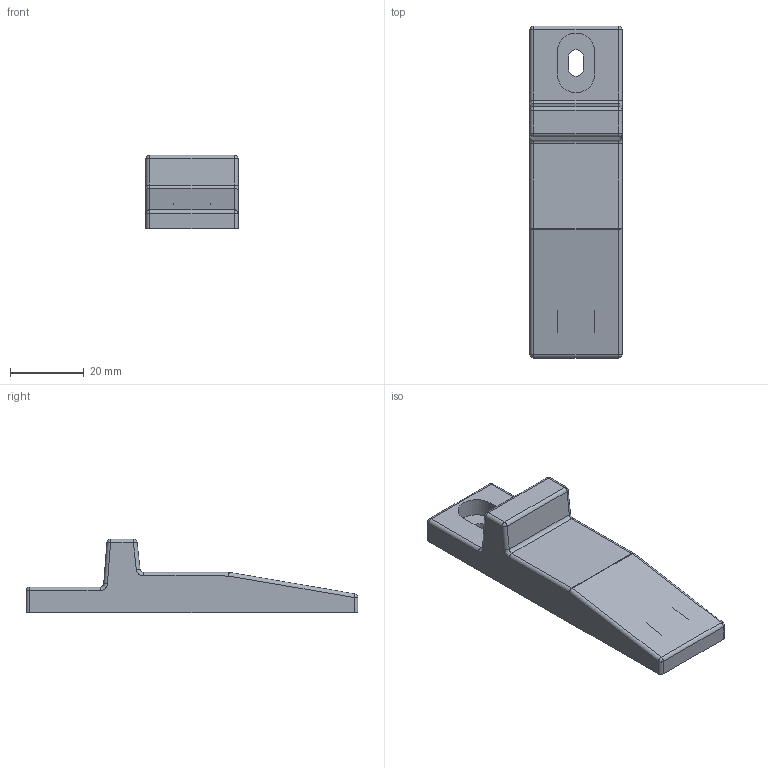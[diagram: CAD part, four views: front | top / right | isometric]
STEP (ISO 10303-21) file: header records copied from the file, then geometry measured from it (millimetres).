
FILE_DESCRIPTION (( 'STEP AP203' ), '1' );
FILE_NAME ('DFB-29.STEP', '2013-11-15T02:36:18', ( 'SDS' ), ( 'SDS' ), 'SwSTEP 2.0', 'SolidWorks 2002296', '' );
FILE_SCHEMA (( 'CONFIG_CONTROL_DESIGN' ));
Length unit declared in the file: millimetre
Products named in the file (1): DFB-29
Bounding box: 25 x 90 x 20 mm (x, y, z)
Surface area: 10557.3 mm2 (no closed solid volume)
Topology: 0 solids, 2 shells, 122 faces, 300 edges, 187 vertices
Faces by surface type: plane 66, cylinder 42, bspline 14
Full cylindrical faces by diameter (mm): 10.2 x1
Entity records: 3858 total; most frequent: CARTESIAN_POINT 950, ORIENTED_EDGE 585, DIRECTION 582, EDGE_CURVE 296, LINE 208, VECTOR 208, AXIS2_PLACEMENT_3D 187, VERTEX_POINT 185
